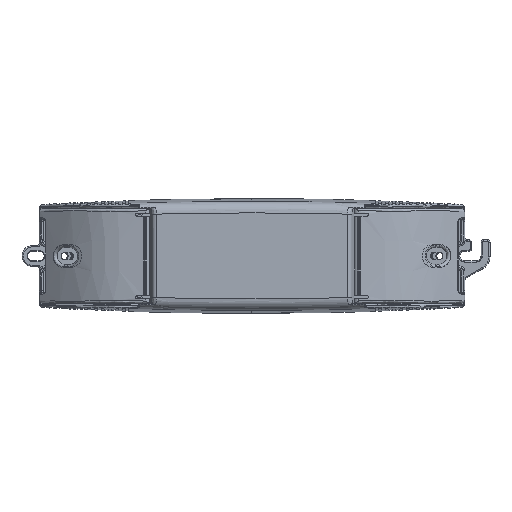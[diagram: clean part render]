
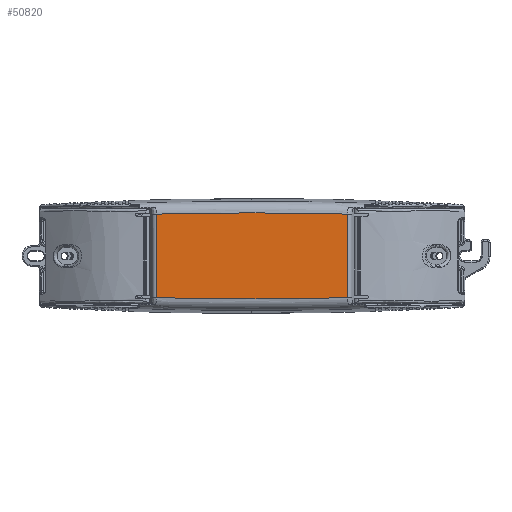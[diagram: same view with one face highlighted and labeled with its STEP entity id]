
A CAD part, top view. The second image highlights one B-rep face of the part: STEP entity #50820.
In plain terms, the highlighted planar face has unit normal (0, 0, 1).
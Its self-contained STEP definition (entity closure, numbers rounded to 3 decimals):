
#41086 = CARTESIAN_POINT ( 'NONE',  ( -41.577, -18.195, 32. ) ) ;
#50728 = EDGE_CURVE ( 'NONE', #50949, #51050, #64339, .T. ) ;
#50752 = VERTEX_POINT ( 'NONE', #64371 ) ;
#50807 = ORIENTED_EDGE ( 'NONE', *, *, #50825, .T. ) ;
#50820 = ADVANCED_FACE ( 'NONE', ( #65228 ), #65122, .T. ) ;
#50821 = ORIENTED_EDGE ( 'NONE', *, *, #50896, .T. ) ;
#50822 = ORIENTED_EDGE ( 'NONE', *, *, #50833, .T. ) ;
#50823 = ORIENTED_EDGE ( 'NONE', *, *, #50728, .T. ) ;
#50825 = EDGE_CURVE ( 'NONE', #51050, #61070, #65192, .T. ) ;
#50833 = EDGE_CURVE ( 'NONE', #50752, #50949, #65295, .T. ) ;
#50835 = EDGE_LOOP ( 'NONE', ( #50821, #50822, #50823, #50807 ) ) ;
#50896 = EDGE_CURVE ( 'NONE', #61070, #50752, #66210, .T. ) ;
#50949 = VERTEX_POINT ( 'NONE', #66951 ) ;
#51050 = VERTEX_POINT ( 'NONE', #69191 ) ;
#61070 = VERTEX_POINT ( 'NONE', #41086 ) ;
#64334 = CARTESIAN_POINT ( 'NONE',  ( -41.577, 18.195, 32. ) ) ;
#64335 = CARTESIAN_POINT ( 'NONE',  ( -13.859, 18.908, 32. ) ) ;
#64336 = CARTESIAN_POINT ( 'NONE',  ( 13.859, 18.908, 32. ) ) ;
#64337 = CARTESIAN_POINT ( 'NONE',  ( 41.577, 18.195, 32. ) ) ;
#64339 = B_SPLINE_CURVE_WITH_KNOTS ( 'NONE', 3,
 ( #64337, #64336, #64335, #64334 ),
 .UNSPECIFIED., .F., .F.,
 ( 4, 4 ),
 ( 0., 1. ),
 .UNSPECIFIED. ) ;
#64371 = CARTESIAN_POINT ( 'NONE',  ( 41.577, -18.195, 32. ) ) ;
#65110 = CARTESIAN_POINT ( 'NONE',  ( -92.5, 25., 32. ) ) ;
#65112 = AXIS2_PLACEMENT_3D ( 'NONE', #65110, #65196, #65194 ) ;
#65122 = PLANE ( 'NONE',  #65112 ) ;
#65189 = DIRECTION ( 'NONE',  ( 0., -1., 0. ) ) ;
#65190 = VECTOR ( 'NONE', #65189, 1000. ) ;
#65191 = CARTESIAN_POINT ( 'NONE',  ( -41.577, 25., 32. ) ) ;
#65192 = LINE ( 'NONE', #65191, #65190 ) ;
#65194 = DIRECTION ( 'NONE',  ( 1., 0., 0. ) ) ;
#65196 = DIRECTION ( 'NONE',  ( 0., 0., 1. ) ) ;
#65228 = FACE_OUTER_BOUND ( 'NONE', #50835, .T. ) ;
#65288 = DIRECTION ( 'NONE',  ( 0., 1., 0. ) ) ;
#65291 = VECTOR ( 'NONE', #65288, 1000. ) ;
#65293 = CARTESIAN_POINT ( 'NONE',  ( 41.577, 25., 32. ) ) ;
#65295 = LINE ( 'NONE', #65293, #65291 ) ;
#66198 = CARTESIAN_POINT ( 'NONE',  ( 41.577, -18.195, 32. ) ) ;
#66200 = CARTESIAN_POINT ( 'NONE',  ( 13.859, -18.908, 32. ) ) ;
#66201 = CARTESIAN_POINT ( 'NONE',  ( -13.859, -18.908, 32. ) ) ;
#66204 = CARTESIAN_POINT ( 'NONE',  ( -41.577, -18.195, 32. ) ) ;
#66210 = B_SPLINE_CURVE_WITH_KNOTS ( 'NONE', 3,
 ( #66204, #66201, #66200, #66198 ),
 .UNSPECIFIED., .F., .F.,
 ( 4, 4 ),
 ( 0., 1. ),
 .UNSPECIFIED. ) ;
#66951 = CARTESIAN_POINT ( 'NONE',  ( 41.577, 18.195, 32. ) ) ;
#69191 = CARTESIAN_POINT ( 'NONE',  ( -41.577, 18.195, 32. ) ) ;
